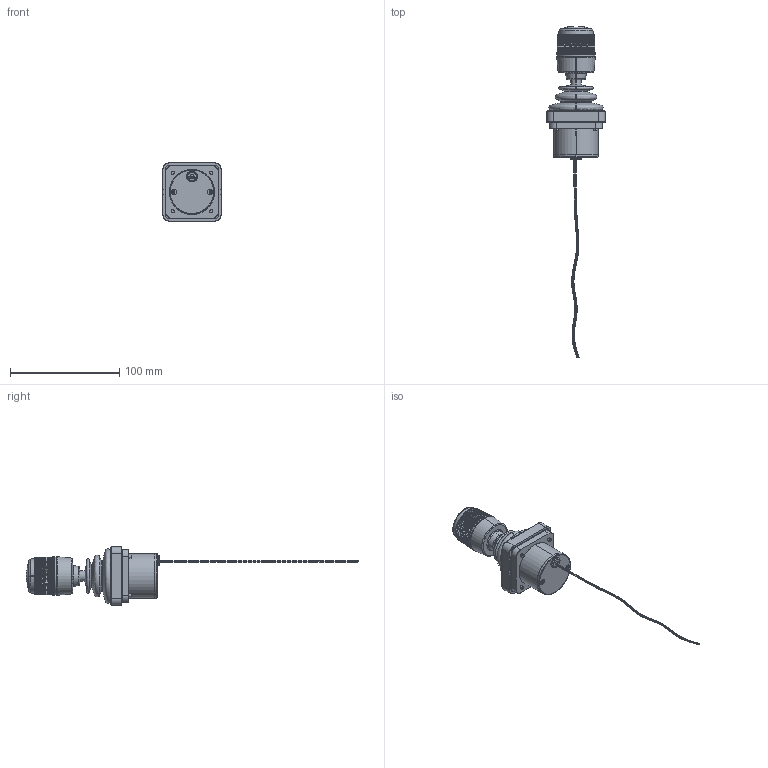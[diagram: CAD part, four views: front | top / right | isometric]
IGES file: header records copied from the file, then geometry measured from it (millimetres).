
Start section: SolidWorks IGES file using analytic representation for surfaces
Global section: file name: Y:\04-Konstruktion\SolidWorks-Projekte\Serie TRY10\IGS-Dateien\TRY10_551A214.IGS; native system: SolidWorks 2007; preprocessor: SolidWorks 2007; author: franzs; date: 090929.120334; units: millimetre
Bounding box: 53.4 x 304.46 x 53.4 mm (x, y, z)
Surface area: 58475 mm2 (no closed solid volume)
Topology: 0 solids, 0 shells, 1586 faces, 15321 edges, 15319 vertices
Faces by surface type: bspline 1315, revolution 271
